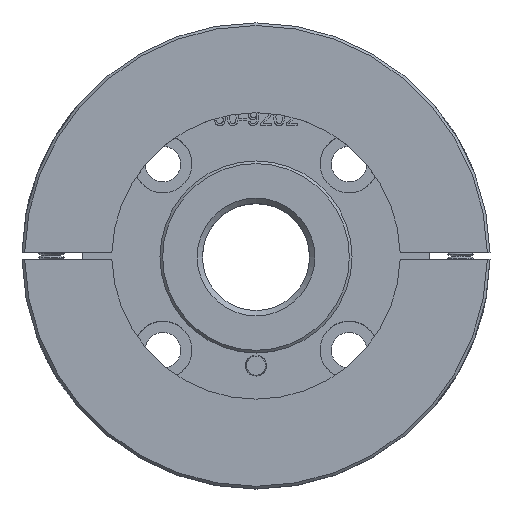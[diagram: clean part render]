
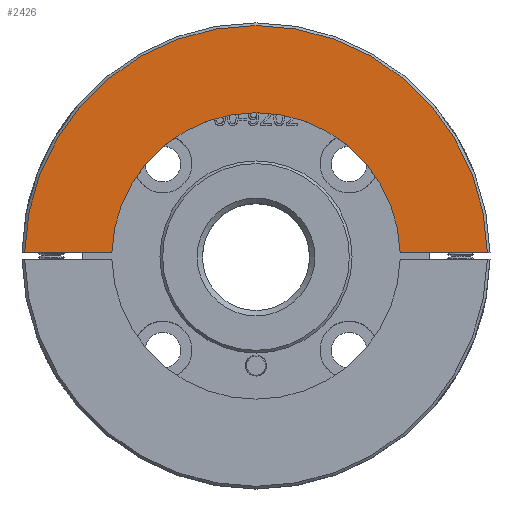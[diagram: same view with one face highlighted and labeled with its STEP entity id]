
A CAD part, top view. The second image highlights one B-rep face of the part: STEP entity #2426.
In plain terms, the highlighted planar face has unit normal (0, 0, 1).
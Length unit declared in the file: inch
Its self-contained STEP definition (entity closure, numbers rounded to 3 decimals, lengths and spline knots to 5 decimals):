
#156 = CARTESIAN_POINT ( 'NONE',  ( -1.07805, 0.031, 0.29248 ) ) ;
#257 = CARTESIAN_POINT ( 'NONE',  ( 0., 0., 0.29248 ) ) ;
#258 = CARTESIAN_POINT ( 'NONE',  ( -1.72972, 0.031, 0.29248 ) ) ;
#758 = VERTEX_POINT ( 'NONE', #156 ) ;
#824 = LINE ( 'NONE', #4733, #1998 ) ;
#1203 = LINE ( 'NONE', #7170, #9349 ) ;
#1324 = DIRECTION ( 'NONE',  ( -1., 0., 0. ) ) ;
#1410 = PLANE ( 'NONE',  #7415 ) ;
#1538 = CARTESIAN_POINT ( 'NONE',  ( -1.0785, 0., 0.29248 ) ) ;
#1790 = CIRCLE ( 'NONE', #8962, 1.0785 ) ;
#1912 = DIRECTION ( 'NONE',  ( 0., -1., 0. ) ) ;
#1998 = VECTOR ( 'NONE', #8656, 39.37008 ) ;
#2233 = EDGE_CURVE ( 'NONE', #8134, #10993, #5974, .T. ) ;
#2426 = ADVANCED_FACE ( 'NONE', ( #11162 ), #1410, .T. ) ;
#2641 = ORIENTED_EDGE ( 'NONE', *, *, #2233, .T. ) ;
#3143 = DIRECTION ( 'NONE',  ( 0., 1., 0. ) ) ;
#3202 = EDGE_LOOP ( 'NONE', ( #7762, #2641, #12537, #8662 ) ) ;
#4733 = CARTESIAN_POINT ( 'NONE',  ( -1.0785, 0.031, 0.29248 ) ) ;
#5821 = CARTESIAN_POINT ( 'NONE',  ( 0., 0., 0.29248 ) ) ;
#5974 = CIRCLE ( 'NONE', #11912, 1.73 ) ;
#6206 = EDGE_CURVE ( 'NONE', #758, #10993, #1203, .T. ) ;
#7170 = CARTESIAN_POINT ( 'NONE',  ( -1.0785, 0.031, 0.29248 ) ) ;
#7415 = AXIS2_PLACEMENT_3D ( 'NONE', #1538, #9374, #7451 ) ;
#7451 = DIRECTION ( 'NONE',  ( 0., 1., 0. ) ) ;
#7762 = ORIENTED_EDGE ( 'NONE', *, *, #9928, .F. ) ;
#8031 = DIRECTION ( 'NONE',  ( 0., 0., 1. ) ) ;
#8134 = VERTEX_POINT ( 'NONE', #11013 ) ;
#8656 = DIRECTION ( 'NONE',  ( -1., 0., 0. ) ) ;
#8662 = ORIENTED_EDGE ( 'NONE', *, *, #9868, .T. ) ;
#8962 = AXIS2_PLACEMENT_3D ( 'NONE', #5821, #11661, #1912 ) ;
#9349 = VECTOR ( 'NONE', #1324, 39.37008 ) ;
#9374 = DIRECTION ( 'NONE',  ( 0., 0., 1. ) ) ;
#9868 = EDGE_CURVE ( 'NONE', #758, #12416, #1790, .T. ) ;
#9928 = EDGE_CURVE ( 'NONE', #8134, #12416, #824, .T. ) ;
#10993 = VERTEX_POINT ( 'NONE', #258 ) ;
#11013 = CARTESIAN_POINT ( 'NONE',  ( 1.72972, 0.031, 0.29248 ) ) ;
#11162 = FACE_OUTER_BOUND ( 'NONE', #3202, .T. ) ;
#11184 = CARTESIAN_POINT ( 'NONE',  ( 1.07805, 0.031, 0.29248 ) ) ;
#11661 = DIRECTION ( 'NONE',  ( 0., 0., -1. ) ) ;
#11912 = AXIS2_PLACEMENT_3D ( 'NONE', #257, #8031, #3143 ) ;
#12416 = VERTEX_POINT ( 'NONE', #11184 ) ;
#12537 = ORIENTED_EDGE ( 'NONE', *, *, #6206, .F. ) ;
